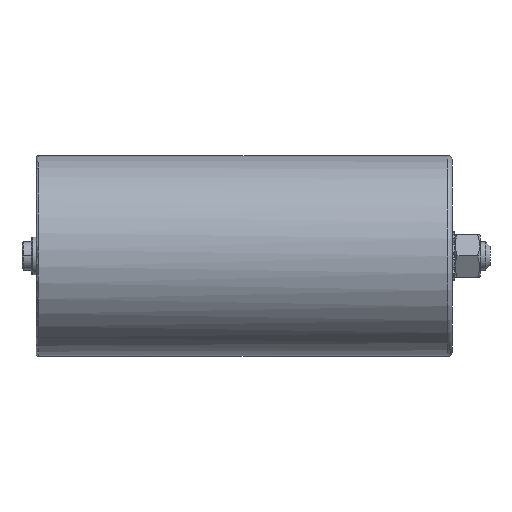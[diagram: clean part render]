
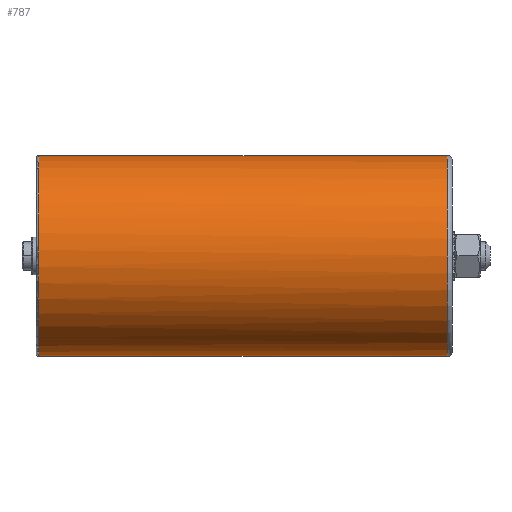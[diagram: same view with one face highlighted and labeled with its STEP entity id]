
A CAD part, left-side view. The second image highlights one B-rep face of the part: STEP entity #787.
In plain terms, the highlighted cylindrical face has radius 42.5 mm (diameter 85 mm), a partial arc.
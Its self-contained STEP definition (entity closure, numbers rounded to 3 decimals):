
#63 = CIRCLE ( 'NONE', #277, 42.5 ) ;
#137 = VECTOR ( 'NONE', #3850, 1000. ) ;
#277 = AXIS2_PLACEMENT_3D ( 'NONE', #2459, #2686, #1814 ) ;
#394 = DIRECTION ( 'NONE',  ( 0., 0., -1. ) ) ;
#446 = VERTEX_POINT ( 'NONE', #853 ) ;
#509 = VERTEX_POINT ( 'NONE', #3244 ) ;
#610 = CARTESIAN_POINT ( 'NONE',  ( 0., 0., -42.5 ) ) ;
#641 = CARTESIAN_POINT ( 'NONE',  ( 0., 0., 0. ) ) ;
#649 = ORIENTED_EDGE ( 'NONE', *, *, #2566, .T. ) ;
#657 = ORIENTED_EDGE ( 'NONE', *, *, #663, .T. ) ;
#663 = EDGE_CURVE ( 'NONE', #3827, #2823, #1911, .T. ) ;
#736 = ORIENTED_EDGE ( 'NONE', *, *, #771, .T. ) ;
#771 = EDGE_CURVE ( 'NONE', #1605, #3827, #1356, .T. ) ;
#787 = ADVANCED_FACE ( 'NONE', ( #1642 ), #2233, .T. ) ;
#853 = CARTESIAN_POINT ( 'NONE',  ( 0., 175., 42.5 ) ) ;
#1012 = DIRECTION ( 'NONE',  ( 0.585, 0., 0.811 ) ) ;
#1125 = CARTESIAN_POINT ( 'NONE',  ( 0., 175., -42.5 ) ) ;
#1312 = AXIS2_PLACEMENT_3D ( 'NONE', #3641, #1720, #394 ) ;
#1315 = CARTESIAN_POINT ( 'NONE',  ( 0., 175., 0. ) ) ;
#1317 = CARTESIAN_POINT ( 'NONE',  ( 0., 0., 42.5 ) ) ;
#1356 = CIRCLE ( 'NONE', #2150, 42.5 ) ;
#1605 = VERTEX_POINT ( 'NONE', #1977 ) ;
#1621 = DIRECTION ( 'NONE',  ( 0., -1., 0. ) ) ;
#1642 = FACE_OUTER_BOUND ( 'NONE', #2051, .T. ) ;
#1720 = DIRECTION ( 'NONE',  ( 0., 1., 0. ) ) ;
#1814 = DIRECTION ( 'NONE',  ( 0.585, 0., 0.811 ) ) ;
#1911 = LINE ( 'NONE', #610, #137 ) ;
#1977 = CARTESIAN_POINT ( 'NONE',  ( -24.861, 175., -34.47 ) ) ;
#2051 = EDGE_LOOP ( 'NONE', ( #2709, #2167, #736, #657, #649 ) ) ;
#2150 = AXIS2_PLACEMENT_3D ( 'NONE', #1315, #2637, #1012 ) ;
#2167 = ORIENTED_EDGE ( 'NONE', *, *, #3037, .T. ) ;
#2233 = CYLINDRICAL_SURFACE ( 'NONE', #2481, 42.5 ) ;
#2459 = CARTESIAN_POINT ( 'NONE',  ( 0., 175., 0. ) ) ;
#2481 = AXIS2_PLACEMENT_3D ( 'NONE', #641, #1621, #3243 ) ;
#2566 = EDGE_CURVE ( 'NONE', #2823, #509, #3768, .T. ) ;
#2621 = VECTOR ( 'NONE', #2850, 1000. ) ;
#2637 = DIRECTION ( 'NONE',  ( 0., -1., 0. ) ) ;
#2686 = DIRECTION ( 'NONE',  ( 0., -1., 0. ) ) ;
#2709 = ORIENTED_EDGE ( 'NONE', *, *, #2815, .F. ) ;
#2815 = EDGE_CURVE ( 'NONE', #446, #509, #3520, .T. ) ;
#2823 = VERTEX_POINT ( 'NONE', #2829 ) ;
#2829 = CARTESIAN_POINT ( 'NONE',  ( 0., 2., -42.5 ) ) ;
#2850 = DIRECTION ( 'NONE',  ( 0., -1., 0. ) ) ;
#3037 = EDGE_CURVE ( 'NONE', #446, #1605, #63, .T. ) ;
#3243 = DIRECTION ( 'NONE',  ( 0., 0., -1. ) ) ;
#3244 = CARTESIAN_POINT ( 'NONE',  ( 0., 2., 42.5 ) ) ;
#3520 = LINE ( 'NONE', #1317, #2621 ) ;
#3641 = CARTESIAN_POINT ( 'NONE',  ( 0., 2., 0. ) ) ;
#3768 = CIRCLE ( 'NONE', #1312, 42.5 ) ;
#3827 = VERTEX_POINT ( 'NONE', #1125 ) ;
#3850 = DIRECTION ( 'NONE',  ( 0., -1., 0. ) ) ;
